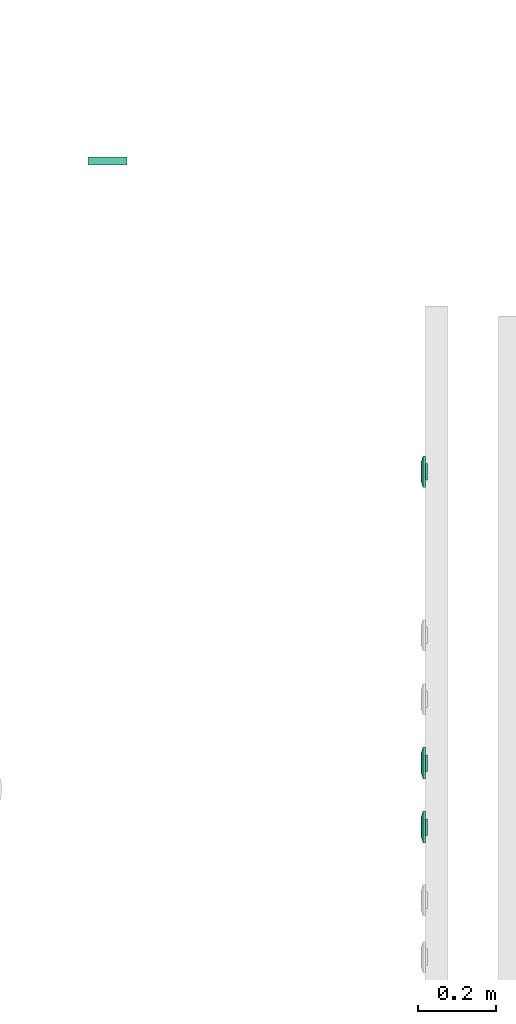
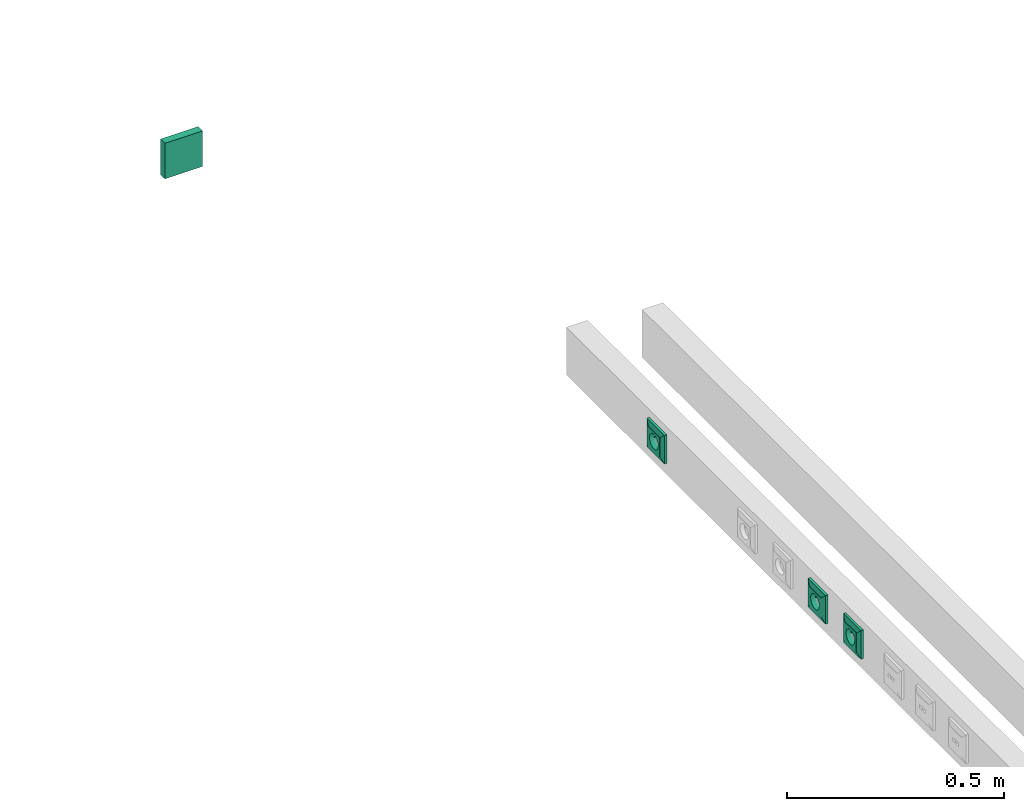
# One storey, part 69 of 166: 4 flow terminals.
"""IFC2X3 building model written with IfcOpenShell, lengths in metres."""

from ifc_helpers import new_model, entity, si_unit, converted_unit, derived_unit, direction, frame, origin, origin_2d_with_axis, place, context, subcontext, project, spatial, rectangle, extrude, face_set, surface_model, source, transform, mapped, type_object, type_shapes, element, save


model = new_model("IFC2X3")

# Units and contexts
model_context = context("Model", 3, precision=1e-05, world=origin(), true_north=direction((6.12303176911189e-17, 1.0)))
body_context = subcontext(model_context, "Body", "Model", "MODEL_VIEW")
ifc_project = project(units=[si_unit("LENGTHUNIT", "METRE"), si_unit("AREAUNIT", "SQUARE_METRE"), si_unit("VOLUMEUNIT", "CUBIC_METRE"), converted_unit("PLANEANGLEUNIT", "DEGREE", entity("IfcRatioMeasure", 0.0174532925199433), si_unit("PLANEANGLEUNIT", "RADIAN"), dimensions=[0, 0, 0, 0, 0, 0, 0]), si_unit("MASSUNIT", "GRAM", prefix="KILO"), derived_unit("MASSDENSITYUNIT", [(si_unit("MASSUNIT", "GRAM", prefix="KILO"), 1), (si_unit("LENGTHUNIT", "METRE"), -3)]), si_unit("TIMEUNIT", "SECOND"), si_unit("FREQUENCYUNIT", "HERTZ"), si_unit("THERMODYNAMICTEMPERATUREUNIT", "DEGREE_CELSIUS"), derived_unit("THERMALTRANSMITTANCEUNIT", [(si_unit("MASSUNIT", "GRAM", prefix="KILO"), 1), (si_unit("THERMODYNAMICTEMPERATUREUNIT", "KELVIN"), -1), (si_unit("TIMEUNIT", "SECOND"), -3)]), derived_unit("VOLUMETRICFLOWRATEUNIT", [(si_unit("LENGTHUNIT", "METRE"), 3), (si_unit("TIMEUNIT", "SECOND"), -1)]), si_unit("ELECTRICCURRENTUNIT", "AMPERE"), si_unit("ELECTRICVOLTAGEUNIT", "VOLT"), si_unit("POWERUNIT", "WATT"), si_unit("FORCEUNIT", "NEWTON"), si_unit("ILLUMINANCEUNIT", "LUX"), si_unit("LUMINOUSFLUXUNIT", "LUMEN"), si_unit("LUMINOUSINTENSITYUNIT", "CANDELA"), derived_unit("USERDEFINED", [(si_unit("MASSUNIT", "GRAM", prefix="KILO"), -1), (si_unit("LENGTHUNIT", "METRE"), -2), (si_unit("TIMEUNIT", "SECOND"), 3), (si_unit("LUMINOUSFLUXUNIT", "LUMEN"), 1)]), derived_unit("LINEARVELOCITYUNIT", [(si_unit("LENGTHUNIT", "METRE"), 1), (si_unit("TIMEUNIT", "SECOND"), -1)]), si_unit("PRESSUREUNIT", "PASCAL"), derived_unit("USERDEFINED", [(si_unit("LENGTHUNIT", "METRE"), -2), (si_unit("MASSUNIT", "GRAM", prefix="KILO"), 1), (si_unit("TIMEUNIT", "SECOND"), -2)])], contexts=[model_context])

# Site, building, storey
site_placement = place(None, origin())
site = spatial("IfcSite", under=ifc_project, at=site_placement, Name="Default", CompositionType="ELEMENT")
building_placement = place(site_placement, origin())
building = spatial("IfcBuilding", under=site, at=building_placement, CompositionType="ELEMENT")
storey_placement = place(building_placement, frame((0.0, 0.0, 4.27)))
storey = spatial("IfcBuildingStorey", under=building, at=storey_placement, Name="01", CompositionType="ELEMENT", Elevation=4.27)

# Flow terminals
light_fixture_type_1 = type_object("IfcLightFixtureType", Name="PC IP20", PredefinedType="NOTDEFINED")
shared_shape_1 = source(origin(), body_context, "Body", "SurfaceModel", [
    surface_model("IfcFaceBasedSurfaceModel", [(-0.00225000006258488, 0.0127499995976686, 0.00949633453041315), (0.0, 0.0104999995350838, 0.00949633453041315), (0.0, 0.0115376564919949, 0.0101656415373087), (0.0, 0.0139623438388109, 0.0101656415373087), (0.0, 0.0144589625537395, 0.00984531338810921), (0.0, 0.0121178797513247, 0.0102778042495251), (0.0, 0.0133821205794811, 0.0102778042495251), (0.0, 0.0127499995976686, 0.010399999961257), (0.0, 0.0149999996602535, 0.00949633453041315), (0.00225000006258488, 0.0127499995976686, 0.00949633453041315), (0.0, 0.0110410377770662, 0.00984531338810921), (0.0, 0.0127499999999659, 0.00949633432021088), (0.00225000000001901, 0.0127499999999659, 0.00949633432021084), (0.00217333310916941, 0.0121676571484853, 0.00949633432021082), (0.00194855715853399, 0.0116249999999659, 0.00949633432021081), (0.00159099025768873, 0.0111590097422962, 0.00949633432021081), (0.001125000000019, 0.010801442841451, 0.00949633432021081), (0.00058234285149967, 0.0105766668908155, 0.00949633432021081), (0.0, 0.0104999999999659, 0.00949633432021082), (-0.000582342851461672, 0.0105766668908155, 0.00949633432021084), (-0.001124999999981, 0.010801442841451, 0.00949633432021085), (-0.00159099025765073, 0.0111590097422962, 0.00949633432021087), (-0.00194855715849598, 0.011624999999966, 0.00949633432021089), (-0.0021733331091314, 0.0121676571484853, 0.00949633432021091), (-0.00224999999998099, 0.012749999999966, 0.00949633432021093), (-0.00217333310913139, 0.0133323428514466, 0.00949633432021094), (-0.00194855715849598, 0.013874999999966, 0.00949633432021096), (-0.00159099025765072, 0.0143409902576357, 0.00949633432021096), (-0.00112499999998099, 0.0146985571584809, 0.00949633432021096), (-0.00058234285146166, 0.0149233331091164, 0.00949633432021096), (0.0, 0.0149999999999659, 0.00949633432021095), (0.000582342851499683, 0.0149233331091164, 0.00949633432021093), (0.00112500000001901, 0.0146985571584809, 0.00949633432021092), (0.00159099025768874, 0.0143409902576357, 0.00949633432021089), (0.001948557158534, 0.0138749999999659, 0.00949633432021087), (0.00217333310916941, 0.0133323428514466, 0.00949633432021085), (0.00225000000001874, 0.0127499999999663, -0.00360000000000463), (0.00217333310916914, 0.0121676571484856, -0.00360000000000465), (0.00194855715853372, 0.0116249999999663, -0.00360000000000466), (0.00159099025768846, 0.0111590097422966, -0.00360000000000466), (0.00112500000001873, 0.0108014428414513, -0.00360000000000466), (0.000582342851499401, 0.0105766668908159, -0.00360000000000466), (0.0, 0.0104999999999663, -0.00360000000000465), (-0.000582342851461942, 0.0105766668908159, -0.00360000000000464), (-0.00112499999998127, 0.0108014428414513, -0.00360000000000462), (-0.001590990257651, 0.0111590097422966, -0.0036000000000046), (-0.00194855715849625, 0.0116249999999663, -0.00360000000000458), (-0.00217333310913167, 0.0121676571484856, -0.00360000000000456), (-0.00224999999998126, 0.0127499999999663, -0.00360000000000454), (-0.00217333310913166, 0.013332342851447, -0.00360000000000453), (-0.00194855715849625, 0.0138749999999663, -0.00360000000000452), (-0.00159099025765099, 0.014340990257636, -0.00360000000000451), (-0.00112499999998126, 0.0146985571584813, -0.00360000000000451), (-0.000582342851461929, 0.0149233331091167, -0.00360000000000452), (0.0, 0.0149999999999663, -0.00360000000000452), (0.000582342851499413, 0.0149233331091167, -0.00360000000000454), (0.00112500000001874, 0.0146985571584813, -0.00360000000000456), (0.00159099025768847, 0.014340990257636, -0.00360000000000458), (0.00194855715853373, 0.0138749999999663, -0.0036000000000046), (0.00217333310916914, 0.013332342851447, -0.00360000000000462), (0.0270000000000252, 0.026999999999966, 0.0113999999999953), (-0.0269999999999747, 0.026999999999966, 0.0113999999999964), (-0.0269999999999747, -0.0270000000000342, 0.0113999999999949), (0.0270000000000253, -0.0270000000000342, 0.0113999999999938), (-0.0199999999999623, 0.0, 0.0113999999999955), (-0.0193185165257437, -0.00517638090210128, 0.0113999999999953), (-0.0173205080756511, -0.0100000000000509, 0.0113999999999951), (-0.0141421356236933, -0.0141421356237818, 0.011399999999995), (-0.00999999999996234, -0.0173205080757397, 0.0113999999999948), (-0.00517638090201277, -0.0193185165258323, 0.0113999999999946), (0.0, -0.0200000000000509, 0.0113999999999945), (0.00517638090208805, -0.0193185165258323, 0.0113999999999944), (0.0100000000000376, -0.0173205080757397, 0.0113999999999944), (0.0141421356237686, -0.0141421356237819, 0.0113999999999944), (0.0173205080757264, -0.010000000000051, 0.0113999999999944), (0.0193185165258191, -0.00517638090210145, 0.0113999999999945), (0.0200000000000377, 0.0, 0.0113999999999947), (0.0193185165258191, 0.00517638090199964, 0.0113999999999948), (0.0173205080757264, 0.0099999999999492, 0.011399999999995), (0.0141421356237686, 0.0141421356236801, 0.0113999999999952), (0.0100000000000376, 0.0173205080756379, 0.0113999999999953), (0.00517638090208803, 0.0193185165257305, 0.0113999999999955), (0.0, 0.0199999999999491, 0.0113999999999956), (-0.00517638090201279, 0.0193185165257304, 0.0113999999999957), (-0.00999999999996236, 0.0173205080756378, 0.0113999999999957), (-0.0141421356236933, 0.01414213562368, 0.0113999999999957), (-0.0173205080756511, 0.00999999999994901, 0.0113999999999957), (-0.0193185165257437, 0.00517638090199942, 0.0113999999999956), (0.0270000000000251, 0.0269999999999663, 0.00199999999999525), (0.0270000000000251, -0.0270000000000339, 0.00199999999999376), (-0.0269999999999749, -0.0270000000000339, 0.00199999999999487), (-0.0269999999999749, 0.0269999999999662, 0.00199999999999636), (0.0210000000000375, 0.0, 0.00199999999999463), (0.0202844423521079, -0.00543519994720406, 0.00199999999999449), (0.0181865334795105, -0.0105000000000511, 0.0019999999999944), (0.0148492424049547, -0.0148492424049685, 0.00199999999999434), (0.0105000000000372, -0.0181865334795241, 0.00199999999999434), (0.0054351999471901, -0.0202844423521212, 0.00199999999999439), (0.0, -0.0210000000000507, 0.00199999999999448), (-0.00543519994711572, -0.020284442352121, 0.00199999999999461), (-0.0104999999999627, -0.0181865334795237, 0.00199999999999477), (-0.0148492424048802, -0.014849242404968, 0.00199999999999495), (-0.0181865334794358, -0.0105000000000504, 0.00199999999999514), (-0.020284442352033, -0.00543519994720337, 0.00199999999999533), (-0.0209999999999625, 0.0, 0.00199999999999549), (-0.0202844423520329, 0.0054351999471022, 0.00199999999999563), (-0.0181865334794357, 0.0104999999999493, 0.00199999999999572), (-0.01484924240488, 0.0148492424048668, 0.00199999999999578), (-0.0104999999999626, 0.0181865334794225, 0.00199999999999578), (-0.00543519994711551, 0.0202844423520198, 0.00199999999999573), (0.0, 0.0209999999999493, 0.00199999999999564), (0.00543519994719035, 0.0202844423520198, 0.00199999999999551), (0.0105000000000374, 0.0181865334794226, 0.00199999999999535), (0.0148492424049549, 0.0148492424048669, 0.00199999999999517), (0.0181865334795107, 0.0104999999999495, 0.00199999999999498), (0.0202844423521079, 0.00543519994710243, 0.00199999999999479), (0.0200000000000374, 0.0, -0.00360000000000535), (0.0193185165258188, -0.00517638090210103, -0.00360000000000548), (0.0173205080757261, -0.0100000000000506, -0.00360000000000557), (0.0141421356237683, -0.0141421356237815, -0.00360000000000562), (0.0100000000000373, -0.0173205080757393, -0.00360000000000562), (0.00517638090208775, -0.0193185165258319, -0.00360000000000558), (0.0, -0.0200000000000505, -0.00360000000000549), (-0.00517638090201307, -0.0193185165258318, -0.00360000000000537), (-0.00999999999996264, -0.0173205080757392, -0.00360000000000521), (-0.0141421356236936, -0.0141421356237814, -0.00360000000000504), (-0.0173205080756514, -0.0100000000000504, -0.00360000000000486), (-0.019318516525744, -0.00517638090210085, -0.00360000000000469), (-0.0199999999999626, 0.0, -0.00360000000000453), (-0.0193185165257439, 0.00517638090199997, -0.0036000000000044), (-0.0173205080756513, 0.00999999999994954, -0.00360000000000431), (-0.0141421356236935, 0.0141421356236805, -0.00360000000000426), (-0.00999999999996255, 0.0173205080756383, -0.00360000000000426), (-0.00517638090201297, 0.0193185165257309, -0.0036000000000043), (0.0, 0.0199999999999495, -0.00360000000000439), (0.00517638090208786, 0.0193185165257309, -0.00360000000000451), (0.0100000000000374, 0.0173205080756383, -0.00360000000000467), (0.0141421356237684, 0.0141421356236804, -0.00360000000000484), (0.0173205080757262, 0.0099999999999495, -0.00360000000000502), (0.0193185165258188, 0.00517638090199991, -0.00360000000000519), (-0.0123499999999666, 0.0, -0.00360000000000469), (-0.0122562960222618, -0.000711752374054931, -0.00360000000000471), (-0.0119815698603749, -0.00137500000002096, -0.00360000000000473), (-0.0115445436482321, -0.00194454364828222, -0.00360000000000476), (-0.0109749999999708, -0.00238156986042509, -0.00360000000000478), (-0.0103117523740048, -0.00265629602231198, -0.0036000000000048), (-0.00959999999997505, -0.00275000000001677, -0.00360000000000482), (-0.0088882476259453, -0.00265629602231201, -0.00360000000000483), (-0.00822499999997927, -0.00238156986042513, -0.00360000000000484), (-0.00765545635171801, -0.00194454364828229, -0.00360000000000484), (-0.00721843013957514, -0.00137500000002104, -0.00360000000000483), (-0.00694370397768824, -0.000711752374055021, -0.00360000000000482), (-0.00684999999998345, 0.0, -0.0036000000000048), (-0.00694370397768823, 0.000711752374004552, -0.00360000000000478), (-0.00721843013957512, 0.00137499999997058, -0.00360000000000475), (-0.00765545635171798, 0.00194454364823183, -0.00360000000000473), (-0.00822499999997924, 0.00238156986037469, -0.0036000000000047), (-0.00888824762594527, 0.00265629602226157, -0.00360000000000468), (-0.00959999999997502, 0.00274999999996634, -0.00360000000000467), (-0.0103117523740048, 0.00265629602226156, -0.00360000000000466), (-0.0109749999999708, 0.00238156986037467, -0.00360000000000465), (-0.011544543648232, 0.00194454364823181, -0.00360000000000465), (-0.0119815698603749, 0.00137499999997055, -0.00360000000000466), (-0.0122562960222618, 0.000711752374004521, -0.00360000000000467), (0.00685000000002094, 0.0, -0.00360000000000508), (0.0069437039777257, -0.00071175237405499, -0.0036000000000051), (0.00721843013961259, -0.00137500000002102, -0.00360000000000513), (0.00765545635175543, -0.00194454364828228, -0.00360000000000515), (0.00822500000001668, -0.00238156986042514, -0.00360000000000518), (0.00888824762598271, -0.00265629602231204, -0.0036000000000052), (0.00960000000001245, -0.00275000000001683, -0.00360000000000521), (0.0103117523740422, -0.00265629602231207, -0.00360000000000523), (0.0109750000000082, -0.00238156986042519, -0.00360000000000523), (0.0115445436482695, -0.00194454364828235, -0.00360000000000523), (0.0119815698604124, -0.0013750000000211, -0.00360000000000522), (0.0122562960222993, -0.00071175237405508, -0.00360000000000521), (0.012350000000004, 0.0, -0.00360000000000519), (0.0122562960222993, 0.000711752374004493, -0.00360000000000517), (0.0119815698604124, 0.00137499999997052, -0.00360000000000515), (0.0115445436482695, 0.00194454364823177, -0.00360000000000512), (0.0109750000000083, 0.00238156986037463, -0.0036000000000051), (0.0103117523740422, 0.00265629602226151, -0.00360000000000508), (0.00960000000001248, 0.00274999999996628, -0.00360000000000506), (0.00888824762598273, 0.0026562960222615, -0.00360000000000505), (0.0082250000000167, 0.00238156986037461, -0.00360000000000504), (0.00765545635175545, 0.00194454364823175, -0.00360000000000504), (0.0072184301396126, 0.00137499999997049, -0.00360000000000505), (0.00694370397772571, 0.000711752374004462, -0.00360000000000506), (0.0210000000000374, 0.0, -0.00460000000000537), (0.0202844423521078, -0.00543519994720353, -0.00460000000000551), (0.0181865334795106, -0.0105000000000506, -0.0046000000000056), (0.0148492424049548, -0.0148492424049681, -0.00460000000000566), (0.0105000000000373, -0.0181865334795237, -0.00460000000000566), (0.00543519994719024, -0.0202844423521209, -0.00460000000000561), (0.0, -0.0210000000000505, -0.00460000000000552), (-0.00543519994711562, -0.0202844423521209, -0.00460000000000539), (-0.0104999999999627, -0.0181865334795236, -0.00460000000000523), (-0.0148492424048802, -0.0148492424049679, -0.00460000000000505), (-0.0181865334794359, -0.0105000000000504, -0.00460000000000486), (-0.0202844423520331, -0.00543519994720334, -0.00460000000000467), (-0.0209999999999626, 0.0, -0.00460000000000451), (-0.020284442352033, 0.00543519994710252, -0.00460000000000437), (-0.0181865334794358, 0.0104999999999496, -0.00460000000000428), (-0.0148492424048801, 0.0148492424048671, -0.00460000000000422), (-0.0104999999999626, 0.0181865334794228, -0.00460000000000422), (-0.00543519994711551, 0.02028444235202, -0.00460000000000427), (0.0, 0.0209999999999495, -0.00460000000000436), (0.00543519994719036, 0.02028444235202, -0.00460000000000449), (0.0105000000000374, 0.0181865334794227, -0.00460000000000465), (0.0148492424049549, 0.014849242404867, -0.00460000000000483), (0.0181865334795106, 0.0104999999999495, -0.00460000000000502), (0.0202844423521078, 0.00543519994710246, -0.00460000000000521), (-0.00684999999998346, 0.0, -0.0046000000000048), (-0.00694370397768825, 0.000711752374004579, -0.00460000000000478), (-0.00721843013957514, 0.00137499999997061, -0.00460000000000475), (-0.007655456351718, 0.00194454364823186, -0.00460000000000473), (-0.00822499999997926, 0.00238156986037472, -0.0046000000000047), (-0.00888824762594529, 0.0026562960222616, -0.00460000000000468), (-0.00959999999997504, 0.00274999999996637, -0.00460000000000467), (-0.0103117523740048, 0.00265629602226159, -0.00460000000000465), (-0.0109749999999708, 0.0023815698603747, -0.00460000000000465), (-0.0115445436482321, 0.00194454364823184, -0.00460000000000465), (-0.0119815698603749, 0.00137499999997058, -0.00460000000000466), (-0.0122562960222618, 0.000711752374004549, -0.00460000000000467), (-0.0123499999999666, 0.0, -0.00460000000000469), (-0.0122562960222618, -0.000711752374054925, -0.00460000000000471), (-0.0119815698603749, -0.00137500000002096, -0.00460000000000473), (-0.0115445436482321, -0.00194454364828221, -0.00460000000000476), (-0.0109749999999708, -0.00238156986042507, -0.00460000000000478), (-0.0103117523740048, -0.00265629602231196, -0.0046000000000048), (-0.00959999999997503, -0.00275000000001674, -0.00460000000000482), (-0.00888824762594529, -0.00265629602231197, -0.00460000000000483), (-0.00822499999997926, -0.00238156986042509, -0.00460000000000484), (-0.007655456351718, -0.00194454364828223, -0.00460000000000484), (-0.00721843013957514, -0.00137500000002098, -0.00460000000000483), (-0.00694370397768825, -0.000711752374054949, -0.00460000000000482), (0.012350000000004, 0.0, -0.00460000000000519), (0.0122562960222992, 0.000711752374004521, -0.00460000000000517), (0.0119815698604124, 0.00137499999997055, -0.00460000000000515), (0.0115445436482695, 0.0019445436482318, -0.00460000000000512), (0.0109750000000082, 0.00238156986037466, -0.0046000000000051), (0.0103117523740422, 0.00265629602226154, -0.00460000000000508), (0.00960000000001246, 0.00274999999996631, -0.00460000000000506), (0.00888824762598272, 0.00265629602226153, -0.00460000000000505), (0.00822500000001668, 0.00238156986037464, -0.00460000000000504), (0.00765545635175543, 0.00194454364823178, -0.00460000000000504), (0.00721843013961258, 0.00137499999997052, -0.00460000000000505), (0.00694370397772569, 0.00071175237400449, -0.00460000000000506), (0.00685000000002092, 0.0, -0.00460000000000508), (0.00694370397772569, -0.000711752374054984, -0.0046000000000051), (0.00721843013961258, -0.00137500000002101, -0.00460000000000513), (0.00765545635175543, -0.00194454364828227, -0.00460000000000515), (0.00822500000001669, -0.00238156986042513, -0.00460000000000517), (0.00888824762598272, -0.00265629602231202, -0.0046000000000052), (0.00960000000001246, -0.0027500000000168, -0.00460000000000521), (0.0103117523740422, -0.00265629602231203, -0.00460000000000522), (0.0109750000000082, -0.00238156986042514, -0.00460000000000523), (0.0115445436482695, -0.00194454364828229, -0.00460000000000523), (0.0119815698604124, -0.00137500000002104, -0.00460000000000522), (0.0122562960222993, -0.000711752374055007, -0.00460000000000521), (0.040350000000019, 0.0403499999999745, 0.00659999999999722), (0.040350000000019, -0.0403500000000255, 0.00659999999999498), (-0.0403499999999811, -0.0403500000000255, 0.00659999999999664), (-0.0403499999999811, 0.0403499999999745, 0.00659999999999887), (0.027000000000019, 0.0269999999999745, 0.00659999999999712), (-0.0269999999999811, 0.0269999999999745, 0.00659999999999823), (-0.026999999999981, -0.0270000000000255, 0.00659999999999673), (0.027000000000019, -0.0270000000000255, 0.00659999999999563), (0.027000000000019, 0.0269999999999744, 0.0103999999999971), (-0.026999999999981, 0.0269999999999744, 0.0103999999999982), (-0.026999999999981, -0.0270000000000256, 0.0103999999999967), (0.027000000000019, -0.0270000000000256, 0.0103999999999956), (0.040350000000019, 0.0403499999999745, 0.00659999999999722), (0.040350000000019, -0.0403500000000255, 0.00659999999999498), (-0.0403499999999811, -0.0403500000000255, 0.00659999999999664), (-0.0403499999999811, 0.0403499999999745, 0.00659999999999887), (-0.0269999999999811, 0.0269999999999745, 0.00659999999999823), (-0.0269999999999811, -0.0270000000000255, 0.00659999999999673), (0.0270000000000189, -0.0270000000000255, 0.00659999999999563), (0.0270000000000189, 0.0269999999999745, 0.00659999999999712), (0.0403500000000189, 0.0403499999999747, 0.0), (0.0403500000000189, -0.0403500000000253, 0.0), (-0.0403499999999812, -0.0403500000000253, 0.0), (-0.0403499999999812, 0.0403499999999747, 0.0), (0.0270000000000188, 0.0269999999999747, 0.0), (-0.0269999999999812, 0.0269999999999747, 0.0), (-0.0269999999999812, -0.0270000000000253, 0.0), (0.0270000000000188, -0.0270000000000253, 0.0)], [face_set([[[0, 1, 2]], [[3, 4, 2, 5]], [[6, 3, 5, 7]], [[2, 4, 0]], [[4, 8, 0]], [[3, 9, 8]], [[1, 9, 10]], [[2, 3, 6, 7]], [[3, 10, 9]], [[2, 10, 3]], [[11, 1, 0, 8]], [[11, 8, 9, 1]]]), face_set([[[12, 13, 14, 15, 16, 17, 18, 19, 20, 21, 22, 23, 24, 25, 26, 27, 28, 29, 30, 31, 32, 33, 34, 35]], [[36, 37, 38, 39, 40, 41, 42, 43, 44, 45, 46, 47, 48, 49, 50, 51, 52, 53, 54, 55, 56, 57, 58, 59]], [[48, 47, 23, 24]], [[47, 46, 22, 23]], [[45, 44, 20, 21]], [[46, 45, 21, 22]], [[44, 43, 19, 20]], [[18, 19, 43, 42]], [[42, 41, 17, 18]], [[41, 40, 16, 17]], [[39, 38, 14, 15]], [[40, 39, 15, 16]], [[38, 37, 13, 14]], [[12, 13, 37, 36]], [[36, 59, 35, 12]], [[59, 58, 34, 35]], [[57, 56, 32, 33]], [[58, 57, 33, 34]], [[56, 55, 31, 32]], [[30, 31, 55, 54]], [[54, 53, 29, 30]], [[53, 52, 28, 29]], [[51, 50, 26, 27]], [[52, 51, 27, 28]], [[50, 49, 25, 26]], [[24, 25, 49, 48]]]), face_set([[[60, 61, 62, 63], [64, 65, 66, 67, 68, 69, 70, 71, 72, 73, 74, 75, 76, 77, 78, 79, 80, 81, 82, 83, 84, 85, 86, 87]], [[88, 89, 90, 91], [92, 93, 94, 95, 96, 97, 98, 99, 100, 101, 102, 103, 104, 105, 106, 107, 108, 109, 110, 111, 112, 113, 114, 115]], [[61, 60, 88, 91]], [[62, 61, 91, 90]], [[63, 62, 90, 89]], [[60, 63, 89, 88]], [[116, 117, 118, 119, 120, 121, 122, 123, 124, 125, 126, 127, 128, 129, 130, 131, 132, 133, 134, 135, 136, 137, 138, 139], [140, 141, 142, 143, 144, 145, 146, 147, 148, 149, 150, 151, 152, 153, 154, 155, 156, 157, 158, 159, 160, 161, 162, 163], [164, 165, 166, 167, 168, 169, 170, 171, 172, 173, 174, 175, 176, 177, 178, 179, 180, 181, 182, 183, 184, 185, 186, 187]], [[64, 128, 127, 65]], [[65, 127, 126, 66]], [[67, 125, 124, 68]], [[66, 126, 125, 67]], [[68, 124, 123, 69]], [[122, 70, 69, 123]], [[70, 122, 121, 71]], [[71, 121, 120, 72]], [[73, 119, 118, 74]], [[72, 120, 119, 73]], [[74, 118, 117, 75]], [[116, 76, 75, 117]], [[76, 116, 139, 77]], [[77, 139, 138, 78]], [[79, 137, 136, 80]], [[78, 138, 137, 79]], [[80, 136, 135, 81]], [[134, 82, 81, 135]], [[82, 134, 133, 83]], [[83, 133, 132, 84]], [[84, 132, 131, 85]], [[85, 131, 130, 86]], [[130, 129, 87, 86]], [[64, 87, 129, 128]], [[188, 189, 190, 191, 192, 193, 194, 195, 196, 197, 198, 199, 200, 201, 202, 203, 204, 205, 206, 207, 208, 209, 210, 211], [212, 213, 214, 215, 216, 217, 218, 219, 220, 221, 222, 223, 224, 225, 226, 227, 228, 229, 230, 231, 232, 233, 234, 235], [236, 237, 238, 239, 240, 241, 242, 243, 244, 245, 246, 247, 248, 249, 250, 251, 252, 253, 254, 255, 256, 257, 258, 259]], [[200, 199, 103, 104]], [[199, 198, 102, 103]], [[197, 196, 100, 101]], [[198, 197, 101, 102]], [[196, 195, 99, 100]], [[98, 99, 195, 194]], [[194, 193, 97, 98]], [[193, 192, 96, 97]], [[191, 190, 94, 95]], [[192, 191, 95, 96]], [[190, 189, 93, 94]], [[92, 93, 189, 188]], [[188, 211, 115, 92]], [[211, 210, 114, 115]], [[209, 208, 112, 113]], [[210, 209, 113, 114]], [[208, 207, 111, 112]], [[110, 111, 207, 206]], [[206, 205, 109, 110]], [[205, 204, 108, 109]], [[203, 202, 106, 107]], [[204, 203, 107, 108]], [[202, 201, 105, 106]], [[104, 105, 201, 200]], [[141, 225, 226, 142]], [[140, 224, 225, 141]], [[144, 228, 229, 145]], [[143, 227, 228, 144]], [[142, 226, 227, 143]], [[230, 146, 145, 229]], [[149, 233, 232, 148]], [[148, 232, 231, 147]], [[152, 212, 235, 151]], [[151, 235, 234, 150]], [[150, 234, 233, 149]], [[146, 230, 231, 147]], [[154, 214, 213, 153]], [[153, 213, 212, 152]], [[157, 217, 216, 156]], [[156, 216, 215, 155]], [[155, 215, 214, 154]], [[218, 158, 157, 217]], [[160, 220, 221, 161]], [[159, 219, 220, 160]], [[163, 223, 224, 140]], [[162, 222, 223, 163]], [[161, 221, 222, 162]], [[158, 218, 219, 159]], [[166, 250, 249, 165]], [[165, 249, 248, 164]], [[169, 253, 252, 168]], [[168, 252, 251, 167]], [[167, 251, 250, 166]], [[254, 170, 169, 253]], [[172, 256, 257, 173]], [[171, 255, 256, 172]], [[175, 259, 236, 176]], [[174, 258, 259, 175]], [[173, 257, 258, 174]], [[170, 254, 255, 171]], [[177, 237, 238, 178]], [[176, 236, 237, 177]], [[180, 240, 241, 181]], [[179, 239, 240, 180]], [[178, 238, 239, 179]], [[242, 182, 181, 241]], [[185, 245, 244, 184]], [[184, 244, 243, 183]], [[164, 248, 247, 187]], [[187, 247, 246, 186]], [[186, 246, 245, 185]], [[182, 242, 243, 183]]]), face_set([[[260, 261, 262, 263], [264, 265, 266, 267]], [[260, 268, 269, 263]], [[263, 269, 270, 262]], [[262, 270, 271, 261]], [[261, 271, 268, 260]], [[264, 265, 269, 268]], [[265, 266, 270, 269]], [[266, 267, 271, 270]], [[268, 271, 267, 264]]]), face_set([[[272, 273, 274, 275], [276, 277, 278, 279]], [[280, 281, 282, 283], [284, 285, 286, 287]], [[275, 272, 280, 283]], [[274, 275, 283, 282]], [[273, 274, 282, 281]], [[272, 273, 281, 280]], [[284, 285, 276, 279]], [[285, 286, 277, 276]], [[286, 287, 278, 277]], [[279, 278, 287, 284]]])]),
])
type_shapes(light_fixture_type_1, [shared_shape_1])
for number, where, z_axis, x_axis in (
    (1, (33.3667436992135, -186.450428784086, 4.70800000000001), (-1.0, 0.0, 0.0), (0.0, -1.0, 0.0)),
    (2, (33.3667436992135, -186.613428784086, 4.70800000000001), (-1.0, 0.0, 0.0), (0.0, -1.0, 0.0)),
    (3, (33.3667436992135, -185.70806962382, 4.70800000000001), (-1.0, 0.0, 0.0), (0.0, -1.0, 0.0)),
):
    element("IfcFlowTerminal", number, at=place(building_placement, frame(where, z_axis=z_axis, x_axis=x_axis)), inside=storey, type_object=light_fixture_type_1, Name="INT Prise de courant:PC IP20", ObjectType="INT Prise de courant:PC IP20", context=body_context, shape_type="MappedRepresentation", body=[
        mapped(shared_shape_1, transform((0.0, 0.0, 0.0), scale=1.0)),
    ])
light_fixture_type_2 = type_object("IfcLightFixtureType", Name="Default", PredefinedType="NOTDEFINED")
shared_shape_2 = source(origin(), body_context, "Body", "SweptSolid", [
    extrude(rectangle(XDim=0.1, YDim=0.1, at=origin_2d_with_axis()), frame((0.0, 0.0, 0.0), z_axis=(0.0, 0.0, 1.0), x_axis=(0.0, 1.0, 0.0)), (0.0, 0.0, 1.0), 0.02),
])
type_shapes(light_fixture_type_2, [shared_shape_2])
flow_terminal_placement = place(building_placement, frame((32.5565184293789, -184.926487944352, 5.32000000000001), z_axis=(0.0, 1.0, 0.0), x_axis=(-1.0, 0.0, 0.0)))
element("IfcFlowTerminal", 4, at=flow_terminal_placement, inside=storey, type_object=light_fixture_type_2, Name="E_Reader_Badge 1_F_MEPcontent:Default", ObjectType="E_Reader_Badge 1_F_MEPcontent:Default", context=body_context, shape_type="MappedRepresentation", body=[
    mapped(shared_shape_2, transform((0.0, 0.0, 0.0), scale=1.0)),
])

save(model, "model.ifc")
